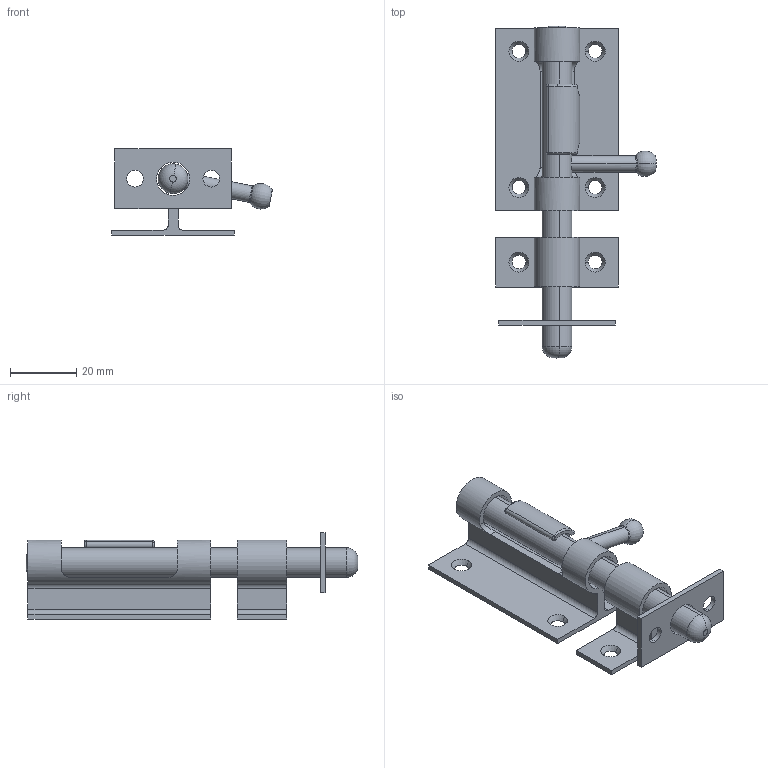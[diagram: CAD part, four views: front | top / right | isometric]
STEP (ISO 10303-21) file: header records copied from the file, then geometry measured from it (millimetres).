
FILE_DESCRIPTION (( 'STEP AP203' ), '1' );
FILE_NAME ('DL-144S-1.STEP', '2013-07-31T04:16:08', ( 'SDS' ), ( 'SDS' ), 'SwSTEP 2.0', 'SolidWorks 2002296', '' );
FILE_SCHEMA (( 'CONFIG_CONTROL_DESIGN' ));
Length unit declared in the file: millimetre
Products named in the file (5): DL-144S-1; DL-144S-1-1_蹬怮椔; DL-144S-1-3_蹬怮椔; DL-144S-1-4_蹬怮椔; DL-144S-1-2_蹬怮椔
Assembly tree (4 placements, depth 2):
  DL-144S-1
    DL-144S-1-4_蹬怮椔
    DL-144S-1-1_蹬怮椔
    DL-144S-1-2_蹬怮椔
    DL-144S-1-3_蹬怮椔
Bounding box: 48.41 x 100 x 26 mm (x, y, z)
Volume: 16246.6 mm3; surface area: 15401 mm2
Topology: 4 solids, 4 shells, 98 faces, 258 edges, 168 vertices
Faces by surface type: plane 38, cylinder 34, torus 14, cone 12
Entity records: 3947 total; most frequent: CARTESIAN_POINT 892, DIRECTION 560, ORIENTED_EDGE 516, EDGE_CURVE 258, AXIS2_PLACEMENT_3D 220, VERTEX_POINT 168, EDGE_LOOP 122, LINE 120
